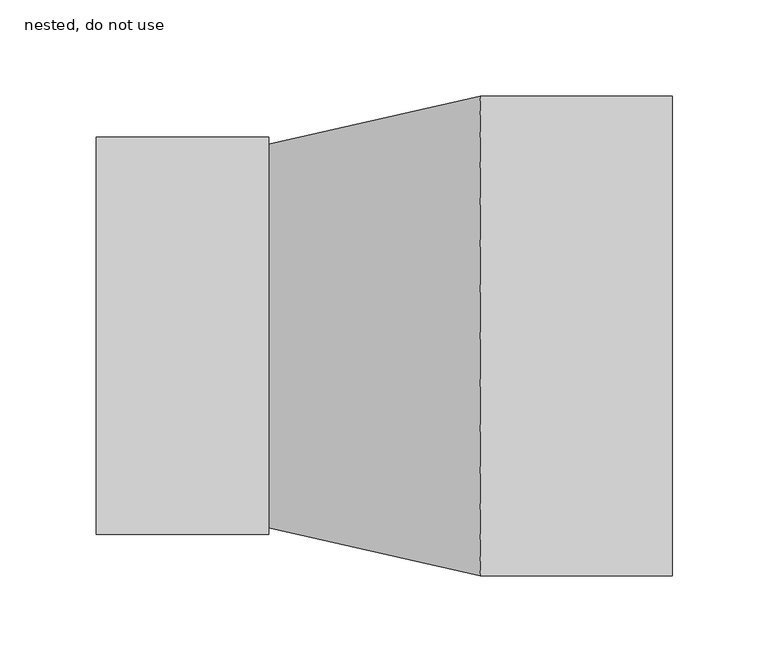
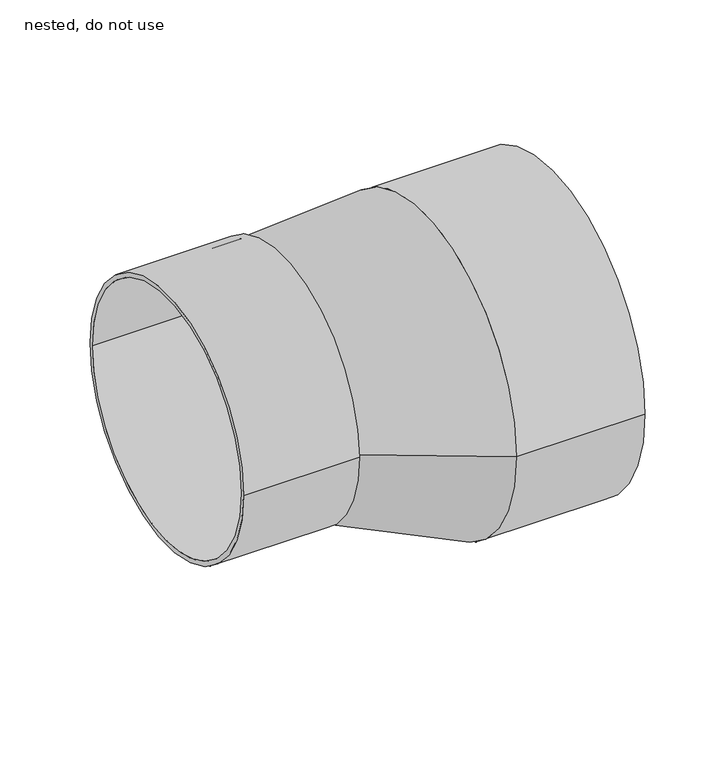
"""IFC4 building model written with IfcOpenShell, lengths in millimetres: pipe fitting geometry, NLRS_52_PIF_UN_Vacurain Flex verloop LV_SH_Dyka : nested, do not use."""

import ifcopenshell
import ifcopenshell.guid

model = None  # the IFC model being written
_history = None  # IfcOwnerHistory: only IFC2X3 demands one
_inside = {}  # id of a spatial element -> (the spatial element, [elements in it])
_under = {}  # id of a project, library or spatial element -> (it, [spatial elements below it])
_declared = {}  # id of a project -> (the project, [libraries it declares])
_typed = {}  # id of a type object -> (the type object, [elements of that type])
_made_of = {}  # id of a material, layer set ... -> (it, [elements and type objects made of it])


def new_model(schema):
    """Start an empty IFC model of exactly this schema.

    Asked for "IFC4X3", IfcOpenShell would pick the latest addendum, in which some entities
    have other attributes; the version numbers below select the first issue.
    IFC2X3 requires an IfcOwnerHistory on every rooted entity: one is made here for all.
    """
    global model, _history
    if schema == "IFC4X3":
        model = ifcopenshell.file(schema_version=(4, 3, 0, 0))
    else:
        model = ifcopenshell.file(schema=schema)
    _inside.clear()
    _under.clear()
    _declared.clear()
    _typed.clear()
    _made_of.clear()
    _history = None
    if model.schema == "IFC2X3":
        org = make("IfcOrganization", Name="unknown")
        user = make(
            "IfcPersonAndOrganization",
            ThePerson=make("IfcPerson", FamilyName="unknown"),
            TheOrganization=org,
        )
        app = make(
            "IfcApplication",
            ApplicationDeveloper=org,
            Version="unknown",
            ApplicationFullName="unknown",
            ApplicationIdentifier="unknown",
        )
        _history = make(
            "IfcOwnerHistory",
            OwningUser=user,
            OwningApplication=app,
            ChangeAction="ADDED",
            CreationDate=0,
        )
    return model


def make(cls, **values):
    """One entity of the class cls with the attributes given. An attribute that is None is left unset."""
    return model.create_entity(
        cls, **{name: value for name, value in values.items() if value is not None}
    )


def rooted(cls, **values):
    """An entity with a GlobalId (a new one), such as an element, a storey or a relation."""
    return make(cls, GlobalId=ifcopenshell.guid.new(), OwnerHistory=_history, **values)


def si_unit(unit_type, name, prefix=None):
    """IfcSIUnit, for example si_unit("LENGTHUNIT", "METRE", prefix="MILLI")."""
    return make("IfcSIUnit", UnitType=unit_type, Prefix=prefix, Name=name)


def assignment(units):
    """IfcUnitAssignment: the units of a project."""
    return None if units is None else make("IfcUnitAssignment", Units=units)


def point(xyz):
    """IfcCartesianPoint."""
    return None if xyz is None else make("IfcCartesianPoint", Coordinates=xyz)


def direction(xyz):
    """IfcDirection."""
    return None if xyz is None else make("IfcDirection", DirectionRatios=xyz)


def frame(location, z_axis=None, x_axis=None):
    """IfcAxis2Placement3D, a coordinate frame: its origin and axes. An axis left out is left unset."""
    return make(
        "IfcAxis2Placement3D",
        Location=point(location),
        Axis=direction(z_axis),
        RefDirection=direction(x_axis),
    )


def frame_2d(location, x_axis=None):
    """IfcAxis2Placement2D, a coordinate frame in the plane: its origin and x axis."""
    return make(
        "IfcAxis2Placement2D", Location=point(location), RefDirection=direction(x_axis)
    )


def origin():
    """The frame at (0, 0, 0) with its axes left unset."""
    return frame((0.0, 0.0, 0.0))


def origin_2d():
    """The frame at (0, 0) in the plane with its x axis left unset."""
    return frame_2d((0.0, 0.0))


def place(relative_to, where):
    """IfcLocalPlacement: puts the frame where relative to a parent placement (None: the world)."""
    return make(
        "IfcLocalPlacement", PlacementRelTo=relative_to, RelativePlacement=where
    )


def context(
    kind, dimensions, precision=None, world=None, true_north=None, identifier=None
):
    """IfcGeometricRepresentationContext, for example the 3D "Model" context."""
    return make(
        "IfcGeometricRepresentationContext",
        ContextIdentifier=identifier,
        ContextType=kind,
        CoordinateSpaceDimension=dimensions,
        Precision=precision,
        WorldCoordinateSystem=world,
        TrueNorth=true_north,
    )


def project(units=None, contexts=None):
    """IfcProject with its units and contexts."""
    return rooted(
        "IfcProject",
        Name="project",
        RepresentationContexts=contexts,
        UnitsInContext=assignment(units),
    )


def spatial(cls, under=None, at=None, **own):
    """A site, building, storey or space (cls), placed at a placement, below another one or the project."""
    s = rooted(cls, ObjectPlacement=at, **own)
    if under is not None:
        _under.setdefault(under.id(), (under, []))[1].append(s)
    return s


def circle_curve(where, radius):
    """IfcCircle in the frame where."""
    return make("IfcCircle", Position=where, Radius=radius)


def trimmed(basis, trim1, trim2, sense, master):
    """IfcTrimmedCurve: the piece of a basis curve between two trims."""
    return make(
        "IfcTrimmedCurve",
        BasisCurve=basis,
        Trim1=trim1,
        Trim2=trim2,
        SenseAgreement=sense,
        MasterRepresentation=master,
    )


def segment(curve, same_sense, transition):
    """IfcCompositeCurveSegment."""
    return make(
        "IfcCompositeCurveSegment",
        Transition=transition,
        SameSense=same_sense,
        ParentCurve=curve,
    )


def composite_curve(segments, self_intersect=None):
    """IfcCompositeCurve: segments joined end to end."""
    return make("IfcCompositeCurve", Segments=segments, SelfIntersect=self_intersect)


def outline(outer, holes=None, kind="AREA"):
    """IfcArbitraryClosedProfileDef: a profile drawn as a closed curve; with holes, ...WithVoids."""
    if holes is None:
        return make("IfcArbitraryClosedProfileDef", ProfileType=kind, OuterCurve=outer)
    return make(
        "IfcArbitraryProfileDefWithVoids",
        ProfileType=kind,
        OuterCurve=outer,
        InnerCurves=holes,
    )


def extrude(swept, where, along, depth):
    """IfcExtrudedAreaSolid: the profile swept, set in the frame where, extruded along a direction by depth."""
    return make(
        "IfcExtrudedAreaSolid",
        SweptArea=swept,
        Position=where,
        ExtrudedDirection=direction(along),
        Depth=depth,
    )


def shape(context_of_items, identifier, shape_type, items):
    """IfcShapeRepresentation: the items that make up one representation, for example the "Body"."""
    return make(
        "IfcShapeRepresentation",
        ContextOfItems=context_of_items,
        RepresentationIdentifier=identifier,
        RepresentationType=shape_type,
        Items=items,
    )


def source(mapping_origin, context_of_items, identifier, shape_type, items):
    """IfcRepresentationMap: a shape defined once, which mapped items show again and again."""
    return make(
        "IfcRepresentationMap",
        MappingOrigin=mapping_origin,
        MappedRepresentation=shape(context_of_items, identifier, shape_type, items),
    )


def transform(
    local_origin,
    x_axis=None,
    y_axis=None,
    z_axis=None,
    scale=None,
    scale2=None,
    scale3=None,
    uniform=True,
):
    """IfcCartesianTransformationOperator3D, or its non-uniform kind. x_axis, y_axis, z_axis: its Axis1, 2, 3."""
    if uniform:
        return make(
            "IfcCartesianTransformationOperator3D",
            Axis1=direction(x_axis),
            Axis2=direction(y_axis),
            LocalOrigin=point(local_origin),
            Scale=scale,
            Axis3=direction(z_axis),
        )
    return make(
        "IfcCartesianTransformationOperator3DnonUniform",
        Axis1=direction(x_axis),
        Axis2=direction(y_axis),
        LocalOrigin=point(local_origin),
        Scale=scale,
        Axis3=direction(z_axis),
        Scale2=scale2,
        Scale3=scale3,
    )


def mapped(mapping_source, mapping_target):
    """IfcMappedItem: shows the shape of a source again, moved by a transform."""
    return make(
        "IfcMappedItem", MappingSource=mapping_source, MappingTarget=mapping_target
    )


def made_of(thing, what):
    """Note that an element or type object is made of a material, layer set ...; save() writes the relation."""
    if what is not None:
        _made_of.setdefault(what.id(), (what, []))[1].append(thing)
    return thing


def element(
    cls,
    number,
    at=None,
    inside=None,
    cuts=None,
    type_object=None,
    material=None,
    context=None,
    identifier="Body",
    shape_type=None,
    held_by="IfcProductDefinitionShape",
    body=None,
    shapes=None,
    **own,
):
    """One element of the class cls, such as IfcWall. Its Tag is "e" and its number.

    at: its placement. inside: the storey or other place that contains it. cuts: it is an
    opening in that element (IfcRelVoidsElement). A single representation is given by context,
    identifier, shape_type and body (its items); several are given by shapes. held_by: the class
    of the entity that holds the representations. save() writes the other relations.
    """
    e = rooted(cls, Tag="e%d" % number, ObjectPlacement=at, **own)
    if body is not None:
        shapes = [shape(context, identifier, shape_type, body)]
    if shapes is not None:
        e.Representation = make(held_by, Representations=shapes)
    if inside is not None:
        _inside.setdefault(inside.id(), (inside, []))[1].append(e)
    if cuts is not None:
        rooted(
            "IfcRelVoidsElement", RelatingBuildingElement=cuts, RelatedOpeningElement=e
        )
    if type_object is not None:
        _typed.setdefault(type_object.id(), (type_object, []))[1].append(e)
    return made_of(e, material)


def aggregate(whole, parts):
    """IfcRelAggregates: a whole, such as a stair, and the parts it consists of."""
    return rooted("IfcRelAggregates", RelatingObject=whole, RelatedObjects=parts)


def save(model, path):
    """Write the relations noted so far, then the file.

    IfcRelAggregates (storeys below a building ...), IfcRelContainedInSpatialStructure (elements
    in a storey), IfcRelDefinesByType, IfcRelAssociatesMaterial and IfcRelDeclares: one each for
    every whole, place, type object, material and project.
    """
    for whole, parts in _under.values():
        aggregate(whole, parts)
    for where, things in _inside.values():
        rooted(
            "IfcRelContainedInSpatialStructure",
            RelatedElements=things,
            RelatingStructure=where,
        )
    for kind, things in _typed.values():
        rooted("IfcRelDefinesByType", RelatedObjects=things, RelatingType=kind)
    for what, things in _made_of.values():
        rooted("IfcRelAssociatesMaterial", RelatedObjects=things, RelatingMaterial=what)
    for by, libraries in _declared.values():
        rooted("IfcRelDeclares", RelatingContext=by, RelatedDefinitions=libraries)
    model.write(path)


def plane_surface(at):
    """IfcPlane: the flat surface through the origin of the frame at, square to its z axis."""
    return make("IfcPlane", Position=at)


def spline_surface(u_degree, v_degree, points, u_multiplicities, v_multiplicities, u_knots, v_knots, weights=None):
    """IfcBSplineSurfaceWithKnots; with weights, IfcRationalBSplineSurfaceWithKnots. points: one row for each step in u."""
    own = dict(
        UDegree=u_degree,
        VDegree=v_degree,
        ControlPointsList=[[point(p) for p in row] for row in points],
        SurfaceForm="UNSPECIFIED",
        UClosed=False,
        VClosed=False,
        SelfIntersect=False,
        UMultiplicities=u_multiplicities,
        VMultiplicities=v_multiplicities,
        UKnots=u_knots,
        VKnots=v_knots,
        KnotSpec="UNSPECIFIED",
    )
    if weights is None:
        return make("IfcBSplineSurfaceWithKnots", **own)
    return make("IfcRationalBSplineSurfaceWithKnots", WeightsData=weights, **own)


def advanced_brep(points, edges, surfaces, faces):
    """IfcAdvancedBrep: a solid bounded by faces that lie on surfaces and meet in shared edges.

    An edge is (start, end): straight between two places in points (the first is 0);
    or (start, end, curve); or (start, end, curve, False) where it runs against its curve.
    A face is (place in surfaces, loops), or (place, loops, False) where it looks against
    its surface's normal. A loop lists edges by number (the first is 1), with a minus sign
    where the edge is run from its end to its start. The first loop is the outer one.
    """
    corners = [point(p) for p in points]
    vertices = [make("IfcVertexPoint", VertexGeometry=c) for c in corners]
    made = []
    for start, end, *more in edges:
        made.append(
            make(
                "IfcEdgeCurve",
                EdgeStart=vertices[start],
                EdgeEnd=vertices[end],
                EdgeGeometry=more[0] if more else make("IfcPolyline", Points=[corners[start], corners[end]]),
                SameSense=more[1] if len(more) > 1 else True,
            )
        )
    hull = []
    for where, loops, *sense in faces:
        bounds = []
        for j, loop in enumerate(loops):
            ring = [make("IfcOrientedEdge", EdgeElement=made[abs(k) - 1], Orientation=k > 0) for k in loop]
            bounds.append(
                make(
                    "IfcFaceOuterBound" if j == 0 else "IfcFaceBound",
                    Bound=make("IfcEdgeLoop", EdgeList=ring),
                    Orientation=True,
                )
            )
        hull.append(make("IfcAdvancedFace", Bounds=bounds, FaceSurface=surfaces[where], SameSense=sense[0] if sense else True))
    return make("IfcAdvancedBrep", Outer=make("IfcClosedShell", CfsFaces=hull))


def nested_do_not_use_60ab9ebd(model_context):
    return source(origin(), model_context, "Body", "SolidModel", [
        advanced_brep(
        [(-195.0, -100.0, 25.0), (-195.0, 100.0, 25.0), (-85.0, -125.0, 0.0), (-85.0, 125.0, 0.0)],
        [
            (0, 1, circle_curve(frame((-195.0, 0.0, 25.0), z_axis=(-1.0, 0.0, 0.0), x_axis=(0.0, 1.0, 0.0)), 100.0)),
            (1, 0, circle_curve(frame((-195.0, 0.0, 25.0), z_axis=(-1.0, 0.0, 0.0), x_axis=(0.0, 1.0, 0.0)), 100.0)),
            (2, 3, circle_curve(frame((-85.0, 0.0, 0.0), z_axis=(1.0, 0.0, 0.0), x_axis=(0.0, 1.0, 0.0)), 125.0)),
            (3, 2, circle_curve(frame((-85.0, 0.0, 0.0), z_axis=(1.0, 0.0, 0.0), x_axis=(0.0, 1.0, 0.0)), 125.0)),
            (2, 0),
            (1, 3),
        ],
        [
            plane_surface(frame((-195.0, 0.0, 25.0), z_axis=(-1.0, 0.0, 0.0), x_axis=(0.0, 0.0, -1.0))),
            plane_surface(frame((-85.0, 0.0, 0.0), z_axis=(1.0, 0.0, 0.0), x_axis=(0.0, 0.0, -1.0))),
            spline_surface(2, 1, [[(-85.0, 125.0, 0.0), (-195.0, 100.0, 25.0)], [(-85.0, 125.0, -125.0), (-195.0, 100.0, -75.0)], [(-85.0, 0.0, -125.0), (-195.0, 0.0, -75.0)], [(-85.0, -125.0, -125.0), (-195.0, -100.0, -75.0)], [(-85.0, -125.0, 0.0), (-195.0, -100.0, 25.0)]], [3, 2, 3], [2, 2], [0.0, 1.0, 2.0], [0.0, 1.0], weights=[[1.0, 1.0], [0.7071067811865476, 0.7071067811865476], [1.0, 1.0], [0.7071067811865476, 0.7071067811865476], [1.0, 1.0]]),
            spline_surface(2, 1, [[(-85.0, -125.0, 0.0), (-195.0, -100.0, 25.0)], [(-85.0, -125.0, 125.0), (-195.0, -100.0, 125.0)], [(-85.0, 0.0, 125.0), (-195.0, 0.0, 125.0)], [(-85.0, 125.0, 125.0), (-195.0, 100.0, 125.0)], [(-85.0, 125.0, 0.0), (-195.0, 100.0, 25.0)]], [3, 2, 3], [2, 2], [0.0, 1.0, 2.0], [0.0, 1.0], weights=[[1.0, 1.0], [0.7071067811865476, 0.7071067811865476], [1.0, 1.0], [0.7071067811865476, 0.7071067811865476], [1.0, 1.0]]),
        ],
        [
            (0, [[1, 2]]),
            (1, [[3, 4]]),
            (2, [[-3, 5, -2, 6]]),
            (3, [[-4, -6, -1, -5]]),
        ],
    ),
        extrude(outline(composite_curve([segment(trimmed(circle_curve(frame_2d((0.0, 25.0)), 103.6), [point((-103.6, 25.0))], [point((103.6, 25.0))], False, "CARTESIAN"), True, "CONTINUOUS"), segment(trimmed(circle_curve(frame_2d((0.0, 25.0)), 103.6), [point((103.6, 25.0))], [point((-103.6, 25.0))], False, "CARTESIAN"), True, "CONTINUOUS")], self_intersect=False), holes=[composite_curve([segment(trimmed(circle_curve(frame_2d((0.0, 25.0)), 100.0), [point((-100.0, 25.0))], [point((100.0, 25.0))], True, "CARTESIAN"), True, "CONTINUOUS"), segment(trimmed(circle_curve(frame_2d((0.0, 25.0)), 100.0), [point((100.0, 25.0))], [point((-100.0, 25.0))], True, "CARTESIAN"), True, "CONTINUOUS")], self_intersect=False)]), frame((-285.0, 0.0, 0.0), z_axis=(1.0, 0.0, 0.0), x_axis=(0.0, 1.0, 0.0)), (0.0, 0.0, 1.0), 90.0),
        extrude(outline(composite_curve([segment(trimmed(circle_curve(origin_2d(), 125.0), [point((-125.0, 0.0))], [point((125.0, 0.0))], False, "CARTESIAN"), True, "CONTINUOUS"), segment(trimmed(circle_curve(origin_2d(), 125.0), [point((125.0, 0.0))], [point((-125.0, 0.0))], False, "CARTESIAN"), True, "CONTINUOUS")], self_intersect=False)), frame((-85.0, 0.0, 0.0), z_axis=(1.0, 0.0, 0.0), x_axis=(0.0, 1.0, 0.0)), (0.0, 0.0, 1.0), 100.0),
    ])


if __name__ == "__main__":
    model = new_model("IFC4")
    model_context = context("Model", 3, world=origin())
    ifc_project = project(units=[si_unit("LENGTHUNIT", "METRE", prefix="MILLI")], contexts=[model_context])
    site = spatial("IfcSite", under=ifc_project)
    building = spatial("IfcBuilding", under=site)
    placement = place(None, origin())
    nested_do_not_use_shape = nested_do_not_use_60ab9ebd(model_context)
    element("IfcPipeFitting", 1, ObjectType="NLRS_52_PIF_UN_Vacurain Flex verloop LV_SH_Dyka : nested, do not use", at=placement, inside=building, context=model_context, shape_type="MappedRepresentation", body=[
        mapped(nested_do_not_use_shape, transform((0.0, 0.0, 0.0), x_axis=(1.0, 0.0, 0.0), y_axis=(0.0, 1.0, 0.0), z_axis=(0.0, 0.0, 1.0))),
    ])
    save(model, "model.ifc")
